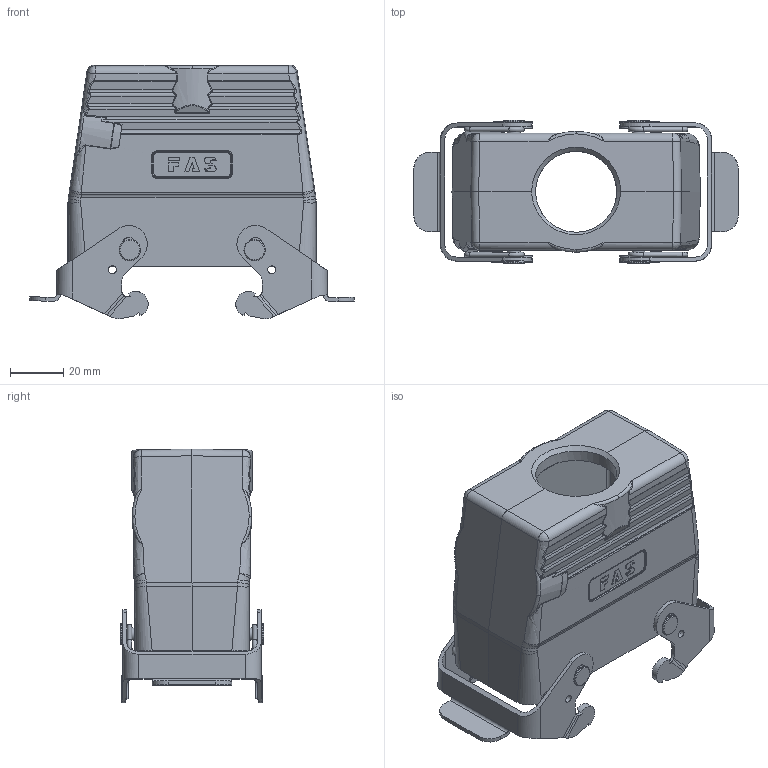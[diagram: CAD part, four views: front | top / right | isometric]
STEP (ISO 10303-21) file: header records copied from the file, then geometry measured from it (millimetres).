
FILE_DESCRIPTION (( 'STEP AP203' ), '1' );
FILE_NAME ('H16B-TGBH-M32.STEP', '2023-06-09T01:09:32', ( '' ), ( '' ), 'SwSTEP 2.0', 'SolidWorks 2016', '' );
FILE_SCHEMA (( 'CONFIG_CONTROL_DESIGN' ));
Length unit declared in the file: millimetre
Products named in the file (1): H16B-TGBH-M32
Bounding box: 122.16 x 54 x 95.65 mm (x, y, z)
Volume: 97363.9 mm3; surface area: 53887.4 mm2
Topology: 1 solids, 1 shells, 832 faces, 2236 edges, 1422 vertices
Faces by surface type: plane 279, cylinder 265, bspline 198, torus 42, cone 36, sphere 12
Full cylindrical faces by diameter (mm): 1.8 x4, 2.95 x4, 3 x4, 4 x4, 4.8 x4, 8 x4, 30.5 x1
Entity records: 39575 total; most frequent: CARTESIAN_POINT 21895, ORIENTED_EDGE 4228, DIRECTION 2761, EDGE_CURVE 2114, VERTEX_POINT 1369, AXIS2_PLACEMENT_3D 983, EDGE_LOOP 947, FACE_OUTER_BOUND 869
